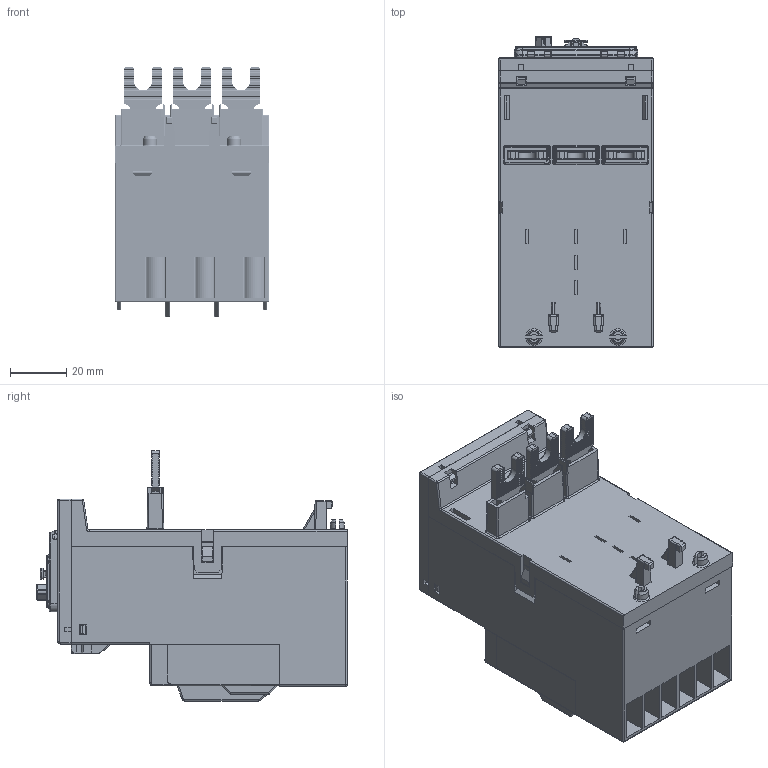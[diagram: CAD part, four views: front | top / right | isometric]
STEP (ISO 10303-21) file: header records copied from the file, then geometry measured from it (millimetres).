
FILE_DESCRIPTION(/* description */ (''),/* implementation_level */ '2;1');
FILE_NAME(/* name */ 'HGT65AF.stp',/* time_stamp */ '2017-12-06T11:43:45+09:00',/* author */ (''),/* organization */ (''),/* preprocessor_version */ 'ST-DEVELOPER v15',/* originating_system */ 'SIEMENS PLM Software NX 9.0',/* authorisation */ '');
FILE_SCHEMA (('CONFIG_CONTROL_DESIGN'));
Products named in the file (1): HGT65AF
Bounding box: 55 x 110.66 x 89.25 mm (x, y, z)
Volume: 224864.6 mm3; surface area: 133962.5 mm2
Topology: 39 solids, 55 shells, 7258 faces, 20229 edges, 13165 vertices
Faces by surface type: plane 5436, cylinder 1274, bspline 213, cone 104, torus 93, extrusion 90, sphere 48
Full cylindrical faces by diameter (mm): 1.8 x6, 2.1 x1, 3 x6, 4 x2, 5.7 x1, 6.5 x4, 6.7 x5, 6.8 x1, 7 x1, 7.8 x3, 8 x1, 12 x1, 12.9 x3
Entity records: 249135 total; most frequent: CARTESIAN_POINT 63853, ORIENTED_EDGE 40240, DIRECTION 35953, EDGE_CURVE 20120, VECTOR 15829, LINE 15739, VERTEX_POINT 13139, AXIS2_PLACEMENT_3D 10062
